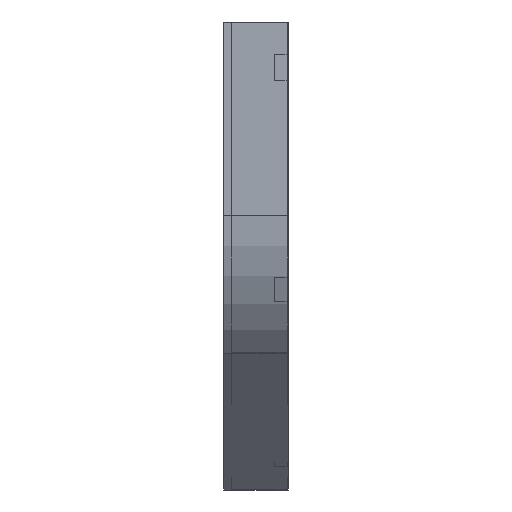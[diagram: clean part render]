
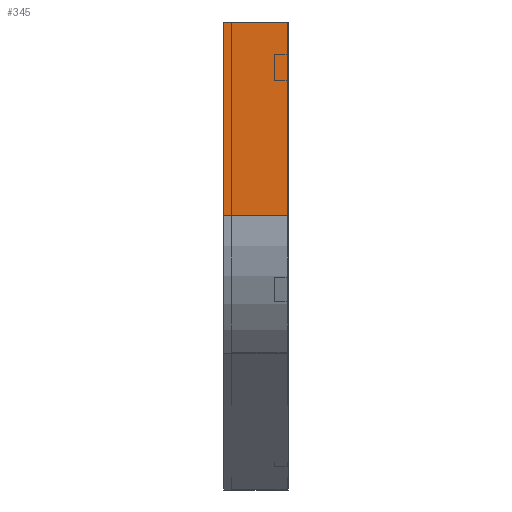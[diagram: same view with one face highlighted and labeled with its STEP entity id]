
A CAD part, left-side view. The second image highlights one B-rep face of the part: STEP entity #345.
In plain terms, the highlighted planar face has unit normal (-1, 0, 0).
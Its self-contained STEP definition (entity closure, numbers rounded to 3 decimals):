
#6 = ORIENTED_EDGE ( 'NONE', *, *, #1110, .T. ) ;
#15 = EDGE_CURVE ( 'NONE', #272, #1123, #1283, .T. ) ;
#119 = DIRECTION ( 'NONE',  ( 0., 0., -1. ) ) ;
#182 = ORIENTED_EDGE ( 'NONE', *, *, #436, .T. ) ;
#223 = DIRECTION ( 'NONE',  ( 0., -1., 0. ) ) ;
#272 = VERTEX_POINT ( 'NONE', #741 ) ;
#286 = CARTESIAN_POINT ( 'NONE',  ( 0., 0., 0. ) ) ;
#312 = VECTOR ( 'NONE', #223, 1000. ) ;
#330 = VECTOR ( 'NONE', #1300, 1000. ) ;
#343 = ORIENTED_EDGE ( 'NONE', *, *, #15, .F. ) ;
#345 = ADVANCED_FACE ( 'NONE', ( #1714 ), #407, .F. ) ;
#384 = LINE ( 'NONE', #1222, #312 ) ;
#407 = PLANE ( 'NONE',  #1204 ) ;
#418 = DIRECTION ( 'NONE',  ( 1., 0., 0. ) ) ;
#436 = EDGE_CURVE ( 'NONE', #272, #631, #888, .T. ) ;
#498 = VERTEX_POINT ( 'NONE', #604 ) ;
#604 = CARTESIAN_POINT ( 'NONE',  ( 0., 0., -298.528 ) ) ;
#631 = VERTEX_POINT ( 'NONE', #1764 ) ;
#738 = EDGE_CURVE ( 'NONE', #1123, #498, #1652, .T. ) ;
#741 = CARTESIAN_POINT ( 'NONE',  ( 0., 100., 0. ) ) ;
#888 = LINE ( 'NONE', #1051, #1138 ) ;
#976 = CARTESIAN_POINT ( 'NONE',  ( 0., 0., 0. ) ) ;
#1051 = CARTESIAN_POINT ( 'NONE',  ( 0., 100., 0. ) ) ;
#1110 = EDGE_CURVE ( 'NONE', #631, #498, #384, .T. ) ;
#1123 = VERTEX_POINT ( 'NONE', #976 ) ;
#1138 = VECTOR ( 'NONE', #1465, 1000. ) ;
#1199 = VECTOR ( 'NONE', #1801, 1000. ) ;
#1204 = AXIS2_PLACEMENT_3D ( 'NONE', #1430, #418, #119 ) ;
#1222 = CARTESIAN_POINT ( 'NONE',  ( 0., 0., -298.528 ) ) ;
#1283 = LINE ( 'NONE', #286, #330 ) ;
#1300 = DIRECTION ( 'NONE',  ( 0., -1., 0. ) ) ;
#1401 = EDGE_LOOP ( 'NONE', ( #1535, #343, #182, #6 ) ) ;
#1430 = CARTESIAN_POINT ( 'NONE',  ( 0., 0., 0. ) ) ;
#1465 = DIRECTION ( 'NONE',  ( 0., 0., -1. ) ) ;
#1535 = ORIENTED_EDGE ( 'NONE', *, *, #738, .F. ) ;
#1652 = LINE ( 'NONE', #1845, #1199 ) ;
#1714 = FACE_OUTER_BOUND ( 'NONE', #1401, .T. ) ;
#1764 = CARTESIAN_POINT ( 'NONE',  ( 0., 100., -298.528 ) ) ;
#1801 = DIRECTION ( 'NONE',  ( 0., 0., -1. ) ) ;
#1845 = CARTESIAN_POINT ( 'NONE',  ( 0., 0., 0. ) ) ;
